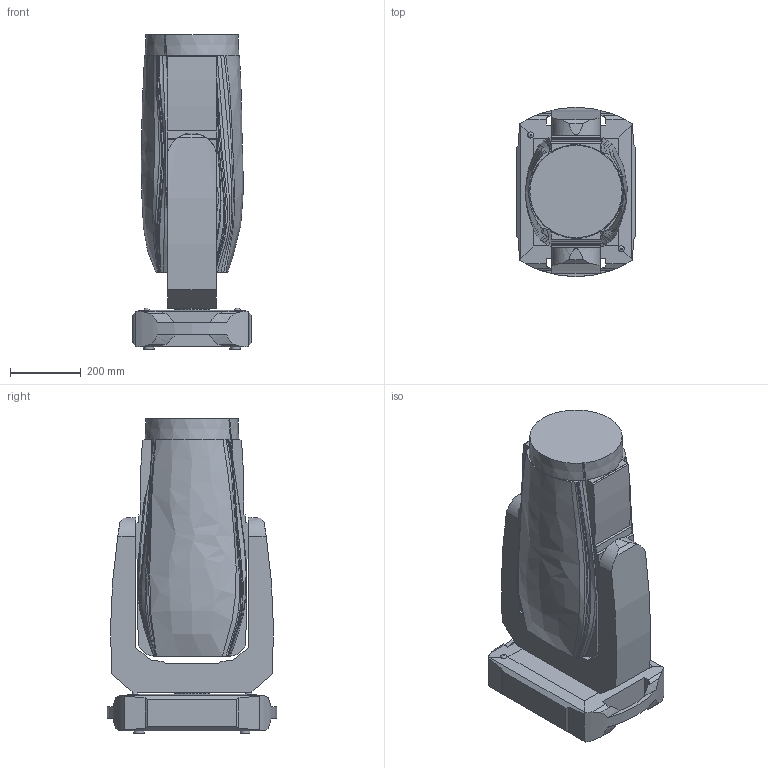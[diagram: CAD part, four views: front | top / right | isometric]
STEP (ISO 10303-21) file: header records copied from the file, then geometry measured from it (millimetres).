
FILE_DESCRIPTION(/* description */ ('Unknown'),/* implementation_level */ '2;1');
FILE_NAME(/* name */ '3D-iForte LT',/* time_stamp */ '2023-11-06T16:07:09+01:00',/* author */ ('Unknown'),/* organization */ ('Unknown'),/* preprocessor_version */ 'ST-DEVELOPER v18.104',/* originating_system */ 'Solid Edge',/* authorisation */ 'Unknown');
FILE_SCHEMA (('AUTOMOTIVE_DESIGN {1 0 10303 214 3 1 1}'));
Length unit declared in the file: millimetre
Products named in the file (4): 3D-iForte LT; iForte LT-Base; iForte LT-Arm; iForte LT-Head
Assembly tree (3 placements, depth 2):
  3D-iForte LT
    iForte LT-Base
    iForte LT-Arm
    iForte LT-Head
Bounding box: 335.42 x 478.88 x 888.06 mm (x, y, z)
Volume: 72588235.4 mm3; surface area: 1799152.3 mm2
Topology: 3 solids, 3 shells, 175 faces, 495 edges, 330 vertices
Faces by surface type: plane 89, bspline 51, cylinder 31, torus 2, cone 2
Full cylindrical faces by diameter (mm): 17 x1, 27.261 x2, 29.966 x2, 49.847 x2, 49.99 x1, 95.6 x1, 97.471 x1
Entity records: 7724 total; most frequent: CARTESIAN_POINT 3599, ORIENTED_EDGE 944, DIRECTION 641, EDGE_CURVE 472, VERTEX_POINT 321, LINE 223, VECTOR 223, AXIS2_PLACEMENT_3D 209
